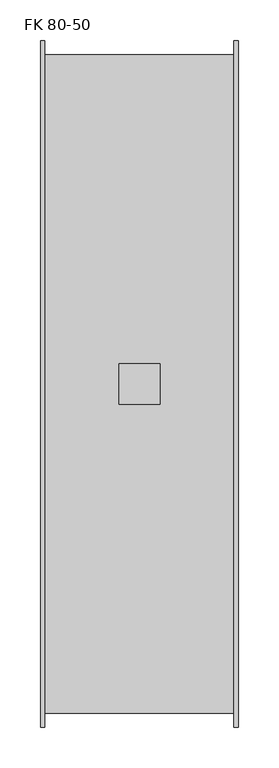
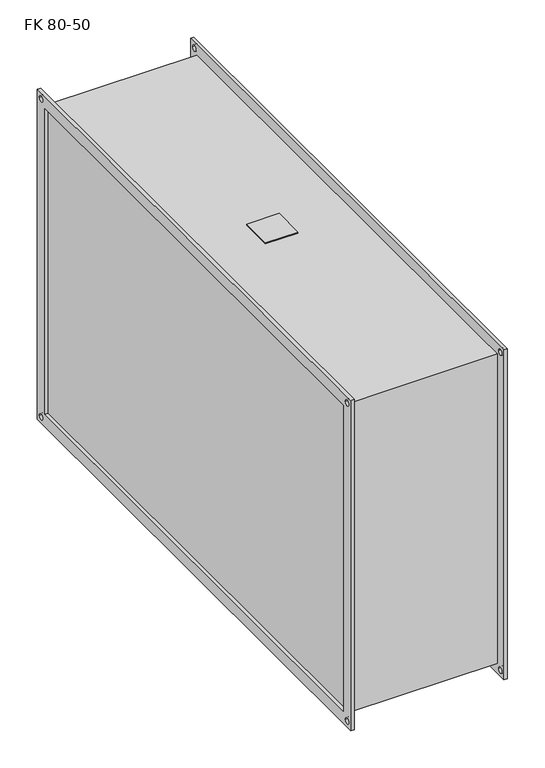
"""IFC4 building model written with IfcOpenShell, lengths in millimetres: damper geometry, KORF_Фильтр_Кассетный_FK : FK 80-50."""

from ifc_helpers import new_model, si_unit, point, frame, frame_2d, origin, place, context, project, spatial, polyline, circle_curve, trimmed, segment, composite_curve, outline, extrude, source, transform, mapped, element, save


def fk_80_50_6e3d6ca7(model_context):
    return source(origin(), model_context, "Body", "SweptSolid", [
        extrude(outline(polyline([(96.0, -25.0), (96.0, 25.0), (146.0, 25.0), (146.0, -25.0), (96.0, -25.0)])), frame((0.0, 0.0, 253.0), z_axis=(0.0, 0.0, 1.0), x_axis=(1.0, 0.0, 0.0)), (0.0, 0.0, 1.0), 2.0),
        extrude(outline(polyline([(-420.0, 270.0), (420.0, 270.0), (420.0, -270.0), (-420.0, -270.0), (-420.0, 270.0)]), holes=[polyline([(-400.0, 250.0), (-400.0, -250.0), (400.0, -250.0), (400.0, 250.0), (-400.0, 250.0)]), composite_curve([segment(trimmed(circle_curve(frame_2d((410.0, 260.0)), 4.5), [point((405.5, 260.0))], [point((414.5, 260.0))], True, "CARTESIAN"), True, "CONTINUOUS"), segment(trimmed(circle_curve(frame_2d((410.0, 260.0)), 4.5), [point((414.5, 260.0))], [point((405.5, 260.0))], True, "CARTESIAN"), True, "CONTINUOUS")], self_intersect=False), composite_curve([segment(trimmed(circle_curve(frame_2d((-410.0, 260.0)), 4.5), [point((-414.5, 260.0))], [point((-405.5, 260.0))], True, "CARTESIAN"), True, "CONTINUOUS"), segment(trimmed(circle_curve(frame_2d((-410.0, 260.0)), 4.5), [point((-405.5, 260.0))], [point((-414.5, 260.0))], True, "CARTESIAN"), True, "CONTINUOUS")], self_intersect=False), composite_curve([segment(trimmed(circle_curve(frame_2d((-410.0, -260.0)), 4.5), [point((-414.5, -260.0))], [point((-405.5, -260.0))], True, "CARTESIAN"), True, "CONTINUOUS"), segment(trimmed(circle_curve(frame_2d((-410.0, -260.0)), 4.5), [point((-405.5, -260.0))], [point((-414.5, -260.0))], True, "CARTESIAN"), True, "CONTINUOUS")], self_intersect=False), composite_curve([segment(trimmed(circle_curve(frame_2d((410.0, -260.0)), 4.5), [point((405.5, -260.0))], [point((414.5, -260.0))], True, "CARTESIAN"), True, "CONTINUOUS"), segment(trimmed(circle_curve(frame_2d((410.0, -260.0)), 4.5), [point((414.5, -260.0))], [point((405.5, -260.0))], True, "CARTESIAN"), True, "CONTINUOUS")], self_intersect=False)]), frame((237.0, 0.0, 0.0), z_axis=(1.0, 0.0, 0.0), x_axis=(0.0, 1.0, 0.0)), (0.0, 0.0, 1.0), 5.0),
        extrude(outline(polyline([(-420.0, 270.0), (420.0, 270.0), (420.0, -270.0), (-420.0, -270.0), (-420.0, 270.0)]), holes=[polyline([(-400.0, 250.0), (-400.0, -250.0), (400.0, -250.0), (400.0, 250.0), (-400.0, 250.0)]), composite_curve([segment(trimmed(circle_curve(frame_2d((410.0, 260.0)), 4.5), [point((405.5, 260.0))], [point((414.5, 260.0))], True, "CARTESIAN"), True, "CONTINUOUS"), segment(trimmed(circle_curve(frame_2d((410.0, 260.0)), 4.5), [point((414.5, 260.0))], [point((405.5, 260.0))], True, "CARTESIAN"), True, "CONTINUOUS")], self_intersect=False), composite_curve([segment(trimmed(circle_curve(frame_2d((-410.0, 260.0)), 4.5), [point((-414.5, 260.0))], [point((-405.5, 260.0))], True, "CARTESIAN"), True, "CONTINUOUS"), segment(trimmed(circle_curve(frame_2d((-410.0, 260.0)), 4.5), [point((-405.5, 260.0))], [point((-414.5, 260.0))], True, "CARTESIAN"), True, "CONTINUOUS")], self_intersect=False), composite_curve([segment(trimmed(circle_curve(frame_2d((-410.0, -260.0)), 4.5), [point((-414.5, -260.0))], [point((-405.5, -260.0))], True, "CARTESIAN"), True, "CONTINUOUS"), segment(trimmed(circle_curve(frame_2d((-410.0, -260.0)), 4.5), [point((-405.5, -260.0))], [point((-414.5, -260.0))], True, "CARTESIAN"), True, "CONTINUOUS")], self_intersect=False), composite_curve([segment(trimmed(circle_curve(frame_2d((410.0, -260.0)), 4.5), [point((405.5, -260.0))], [point((414.5, -260.0))], True, "CARTESIAN"), True, "CONTINUOUS"), segment(trimmed(circle_curve(frame_2d((410.0, -260.0)), 4.5), [point((414.5, -260.0))], [point((405.5, -260.0))], True, "CARTESIAN"), True, "CONTINUOUS")], self_intersect=False)]), frame((0.0, 0.0, 0.0), z_axis=(1.0, 0.0, 0.0), x_axis=(0.0, 1.0, 0.0)), (0.0, 0.0, 1.0), 5.0),
        extrude(outline(polyline([(237.0, 403.0), (237.0, -403.0), (5.0, -403.0), (5.0, 403.0), (237.0, 403.0)])), frame((0.0, 0.0, -253.0), z_axis=(0.0, 0.0, 1.0), x_axis=(1.0, 0.0, 0.0)), (0.0, 0.0, 1.0), 506.0),
    ])


if __name__ == "__main__":
    model = new_model("IFC4")
    model_context = context("Model", 3, world=origin())
    ifc_project = project(units=[si_unit("LENGTHUNIT", "METRE", prefix="MILLI")], contexts=[model_context])
    site = spatial("IfcSite", under=ifc_project)
    building = spatial("IfcBuilding", under=site)
    placement = place(None, origin())
    fk_80_50_shape = fk_80_50_6e3d6ca7(model_context)
    element("IfcDamper", 1, ObjectType="KORF_Фильтр_Кассетный_FK : FK 80-50", at=placement, inside=building, context=model_context, shape_type="MappedRepresentation", body=[
        mapped(fk_80_50_shape, transform((0.0, 0.0, 0.0), x_axis=(1.0, 0.0, 0.0), y_axis=(0.0, 1.0, 0.0), z_axis=(0.0, 0.0, 1.0))),
    ])
    save(model, "model.ifc")
